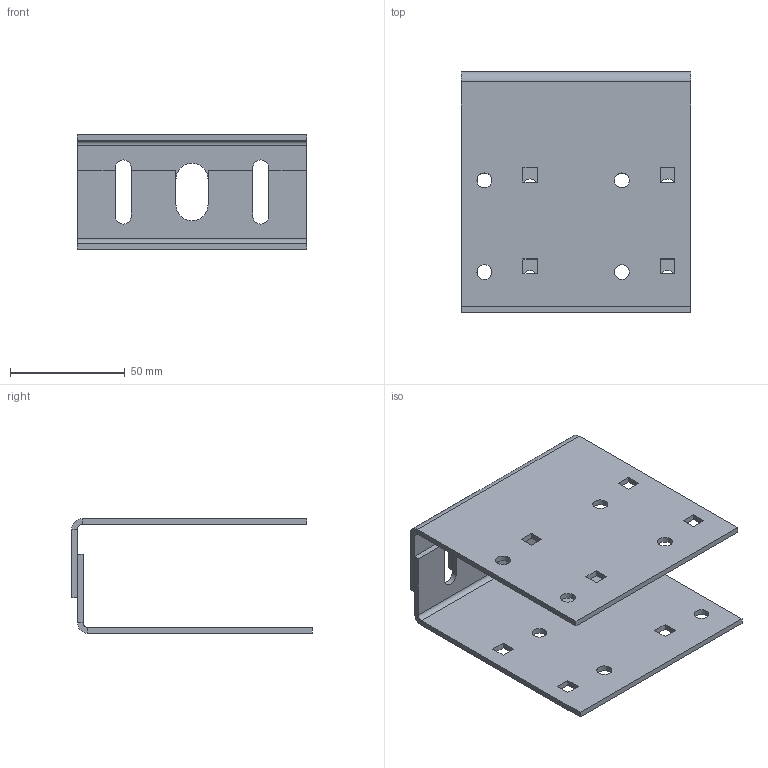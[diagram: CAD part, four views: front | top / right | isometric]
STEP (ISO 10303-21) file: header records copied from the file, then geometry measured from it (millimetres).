
FILE_DESCRIPTION(/* description */ ('Biegeteil mit Löchern'),/* implementation_level */ '2;1');
FILE_NAME(/* name */ 'Q:\sge-ma\Produktmanagement-STB\STB\Workspace\stp\010336510.stp',/* time_stamp */ '2016-07-18T13:59:53+02:00',/* author */ ('avschreier'),/* organization */ (''),/* preprocessor_version */ 'ST-DEVELOPER v16.1',/* originating_system */ 'Autodesk Inventor 2016',/* authorisation */ '');
FILE_SCHEMA (('AUTOMOTIVE_DESIGN { 1 0 10303 214 3 1 1 }'));
Length unit declared in the file: millimetre
Products named in the file (2): 337000253; 010336510
Assembly tree (2 placements, depth 2):
  010336510
    337000253  x2
Bounding box: 100 x 105 x 50 mm (x, y, z)
Volume: 62044.8 mm3; surface area: 53517.3 mm2
Topology: 2 solids, 2 shells, 92 faces, 248 edges, 160 vertices
Faces by surface type: plane 74, cylinder 18
Full cylindrical faces by diameter (mm): 6.5 x8
Entity records: 1486 total; most frequent: CARTESIAN_POINT 250, ORIENTED_EDGE 240, DIRECTION 238, EDGE_CURVE 120, LINE 102, VECTOR 102, VERTEX_POINT 80, AXIS2_PLACEMENT_3D 68
